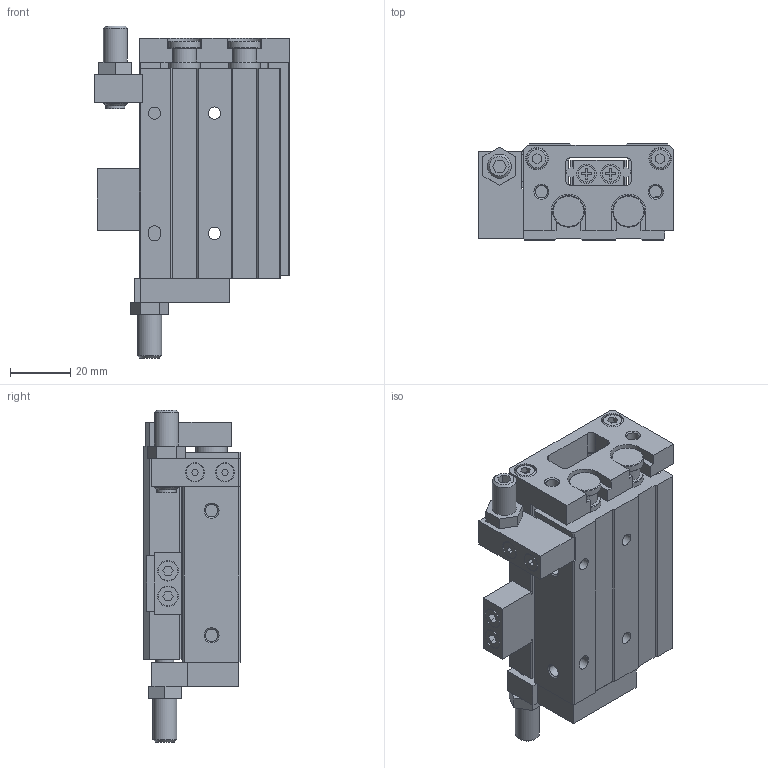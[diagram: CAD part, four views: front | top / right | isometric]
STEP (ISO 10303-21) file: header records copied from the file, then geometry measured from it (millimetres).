
FILE_DESCRIPTION( ( 'STEP AP214' ), '1' );
FILE_NAME( 'C:/Users/EMC02301/Desktop/ELS图纸/ELS12X20-S-A.stp', '2026-08-05T05:49:15', ( 'License CC BY-ND 4.0' ), ( 'CADENAS' ), ' ', 'PARTsolutions', ' ' );
FILE_SCHEMA( ( 'AUTOMOTIVE_DESIGN { 1 0 10303 214 1 1 1 1 }' ) );
Length unit declared in the file: millimetre
Products named in the file (6): ELS12X20-S-A(0)(); _ELS12X20-S-A(HX-07)(HX-07-1)(0-body); _ELS12X20-S-A(0-rod); _FJ-ELS12-A; _FJ-ELS12-A-(AS); _FJ-ELS12-(AF)
Assembly tree (5 placements, depth 2):
  ELS12X20-S-A(0)()
    _ELS12X20-S-A(HX-07)(HX-07-1)(0-body)
    _ELS12X20-S-A(0-rod)
    _FJ-ELS12-A
    _FJ-ELS12-A-(AS)
    _FJ-ELS12-(AF)
Bounding box: 65 x 32 x 110.5 mm (x, y, z)
Volume: 116213.3 mm3; surface area: 49918.5 mm2
Topology: 5 solids, 5 shells, 564 faces, 1372 edges, 902 vertices
Faces by surface type: plane 437, cylinder 98, cone 27, torus 2
Full cylindrical faces by diameter (mm): 3.242 x12, 4 x2, 4.134 x6, 4.2 x2, 5.5 x8, 5.933 x2, 6 x5, 6.333 x2, 6.4 x1, 6.433 x2, 6.5 x8, 6.833 x2, 7 x2, 7.2 x4, 7.5 x2, 7.6 x4, 8 x3, 9 x4, 10.5 x6, 12 x4, 15.1 x2
Entity records: 20350 total; most frequent: CARTESIAN_POINT 2706, DIRECTION 2620, ORIENTED_EDGE 2494, EDGE_CURVE 1247, LINE 1014, VECTOR 1014, VERTEX_POINT 889, AXIS2_PLACEMENT_3D 803
